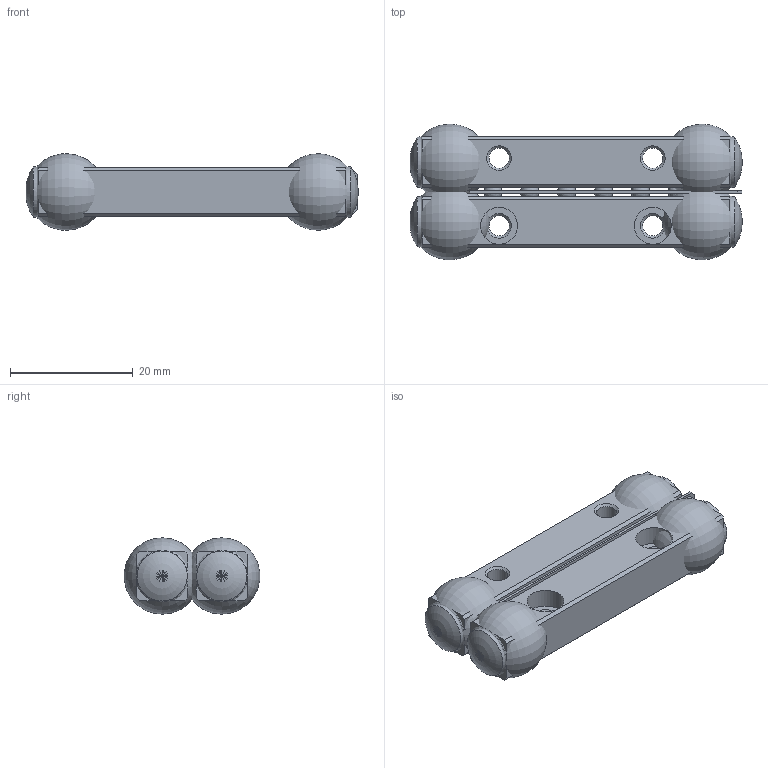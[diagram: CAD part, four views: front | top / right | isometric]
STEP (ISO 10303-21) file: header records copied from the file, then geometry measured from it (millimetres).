
FILE_DESCRIPTION(/* description */ ('STEP AP214'),/* implementation_level */ '2;1');
FILE_NAME(/* name */ 'VB3-50Hx7Z(0)',/* time_stamp */ '2024-09-19T10:02:40+02:00',/* author */ ('License CC BY-ND 4.0'),/* organization */ ('CADENAS'),/* preprocessor_version */ 'ST-DEVELOPER v19.3',/* originating_system */ 'PARTsolutions',/* authorisation */ ' ');
FILE_SCHEMA (('AUTOMOTIVE_DESIGN {1 0 10303 214 3 1 1}'));
Length unit declared in the file: millimetre
Products named in the file (3): VB3-50Hx7Z(0); VR3-50*7Z Ball guide; VR3-50*7Z Ball cage
Assembly tree (3 placements, depth 2):
  VB3-50Hx7Z(0)
    VR3-50*7Z Ball guide  x2
    VR3-50*7Z Ball cage
Bounding box: 53.99 x 22.03 x 12.42 mm (x, y, z)
Volume: 2226.4 mm3; surface area: 6716 mm2
Topology: 3 solids, 3 shells, 102 faces, 218 edges, 138 vertices
Faces by surface type: plane 64, sphere 14, cone 12, cylinder 8, torus 4
Full cylindrical faces by diameter (mm): 3.3 x4, 6 x4
Entity records: 1660 total; most frequent: DIRECTION 289, CARTESIAN_POINT 262, ORIENTED_EDGE 226, EDGE_CURVE 113, AXIS2_PLACEMENT_3D 109, FACE_BOUND 95, EDGE_LOOP 93, VERTEX_POINT 82
